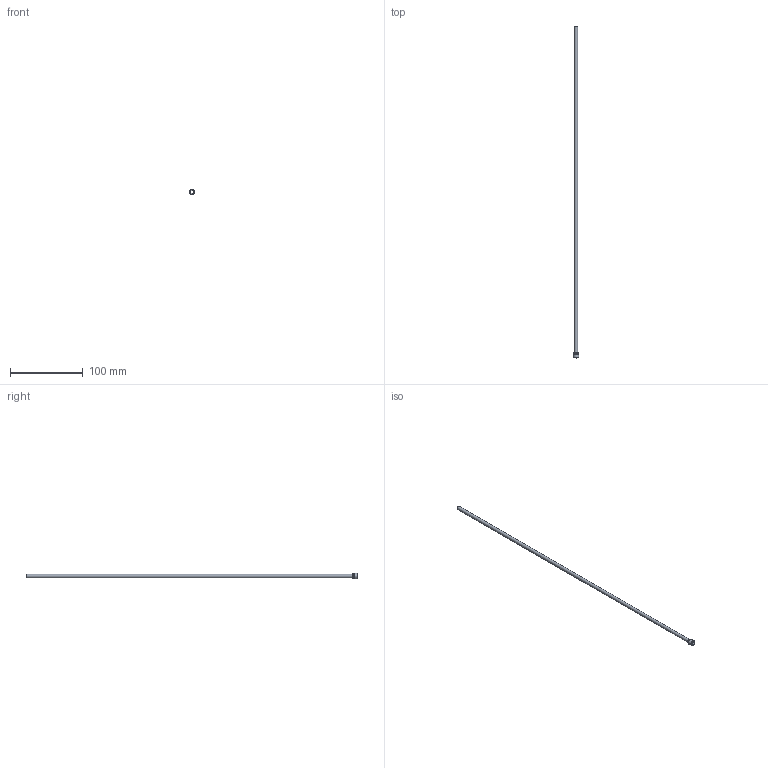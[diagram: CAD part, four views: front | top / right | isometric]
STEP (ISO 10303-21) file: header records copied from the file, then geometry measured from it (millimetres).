
FILE_DESCRIPTION(/* description */ (''),/* implementation_level */ '2;1');
FILE_NAME(/* name */ 'C:/Users/drich/Desktop/PT16-187-18 v2.step',/* time_stamp */ '2019-12-27T15:20:29-06:00',/* author */ (''),/* organization */ (''),/* preprocessor_version */ 'ST-DEVELOPER v18',/* originating_system */ 'Autodesk Translation Framework v8.12.0.6',/* authorisation */ '');
FILE_SCHEMA (('AUTOMOTIVE_DESIGN { 1 0 10303 214 3 1 1 }'));
Length unit declared in the file: inch
Products named in the file (1): PT16-187-18
Bounding box: 7.62 x 457.2 x 7.62 mm (x, y, z)
Volume: 1736.9 mm3; surface area: 12985.5 mm2
Topology: 1 solids, 1 shells, 25 faces, 62 edges, 41 vertices
Faces by surface type: plane 16, cylinder 5, torus 2, cone 2
Full cylindrical faces by diameter (mm): 3.962 x1, 4.242 x1, 4.724 x1, 5.969 x1, 7.616 x1
Entity records: 798 total; most frequent: DIRECTION 145, CARTESIAN_POINT 129, ORIENTED_EDGE 124, EDGE_CURVE 62, AXIS2_PLACEMENT_3D 57, VERTEX_POINT 41, LINE 31, VECTOR 31
